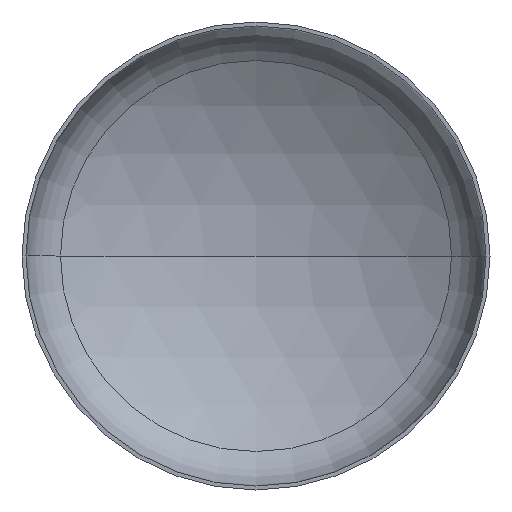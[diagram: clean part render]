
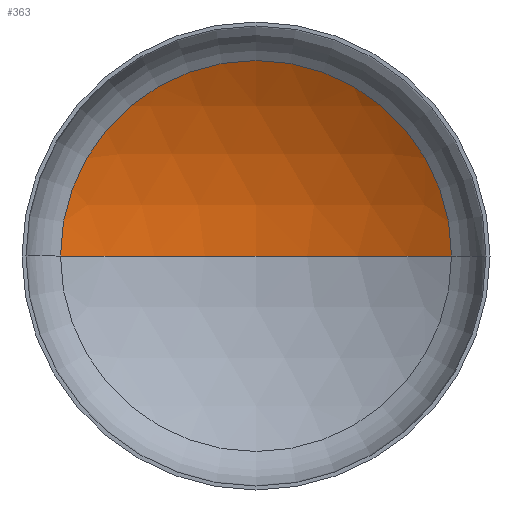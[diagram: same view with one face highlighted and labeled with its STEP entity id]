
A CAD part, front view. The second image highlights one B-rep face of the part: STEP entity #363.
In plain terms, the highlighted spherical face has radius 284 mm.
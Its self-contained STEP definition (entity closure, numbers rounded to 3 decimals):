
#2 = AXIS2_PLACEMENT_3D ( 'NONE', #63, #64, #67 ) ;
#46 = CIRCLE ( 'NONE', #127, 148.573 ) ;
#63 = CARTESIAN_POINT ( 'NONE',  ( 0., -175.164, 0. ) ) ;
#64 = DIRECTION ( 'NONE',  ( 0., 0., 1. ) ) ;
#67 = DIRECTION ( 'NONE',  ( 1., 0., 0. ) ) ;
#70 = DIRECTION ( 'NONE',  ( 0., 0., -1. ) ) ;
#74 = CARTESIAN_POINT ( 'NONE',  ( 148.573, 66.873, 0. ) ) ;
#98 = DIRECTION ( 'NONE',  ( 0., 0., -1. ) ) ;
#104 = DIRECTION ( 'NONE',  ( 1., 0., 0. ) ) ;
#127 = AXIS2_PLACEMENT_3D ( 'NONE', #249, #167, #104 ) ;
#138 = CARTESIAN_POINT ( 'NONE',  ( -148.573, 66.873, 0. ) ) ;
#149 = VERTEX_POINT ( 'NONE', #74 ) ;
#151 = AXIS2_PLACEMENT_3D ( 'NONE', #320, #70, #353 ) ;
#165 = CARTESIAN_POINT ( 'NONE',  ( 0., 108.836, 0. ) ) ;
#167 = DIRECTION ( 'NONE',  ( 0., -1., 0. ) ) ;
#181 = VERTEX_POINT ( 'NONE', #165 ) ;
#198 = SPHERICAL_SURFACE ( 'NONE', #265, 284. ) ;
#249 = CARTESIAN_POINT ( 'NONE',  ( 0., 66.873, 0. ) ) ;
#252 = ORIENTED_EDGE ( 'NONE', *, *, #303, .T. ) ;
#262 = EDGE_CURVE ( 'NONE', #181, #390, #296, .T. ) ;
#265 = AXIS2_PLACEMENT_3D ( 'NONE', #402, #98, #404 ) ;
#296 = CIRCLE ( 'NONE', #2, 284. ) ;
#303 = EDGE_CURVE ( 'NONE', #149, #390, #46, .T. ) ;
#306 = EDGE_CURVE ( 'NONE', #181, #149, #364, .T. ) ;
#320 = CARTESIAN_POINT ( 'NONE',  ( 0., -175.164, 0. ) ) ;
#351 = FACE_OUTER_BOUND ( 'NONE', #380, .T. ) ;
#353 = DIRECTION ( 'NONE',  ( -1., 0., 0. ) ) ;
#363 = ADVANCED_FACE ( 'NONE', ( #351 ), #198, .F. ) ;
#364 = CIRCLE ( 'NONE', #151, 284. ) ;
#373 = ORIENTED_EDGE ( 'NONE', *, *, #306, .T. ) ;
#380 = EDGE_LOOP ( 'NONE', ( #400, #373, #252 ) ) ;
#390 = VERTEX_POINT ( 'NONE', #138 ) ;
#400 = ORIENTED_EDGE ( 'NONE', *, *, #262, .F. ) ;
#402 = CARTESIAN_POINT ( 'NONE',  ( 0., -175.164, 0. ) ) ;
#404 = DIRECTION ( 'NONE',  ( -1., 0., 0. ) ) ;
